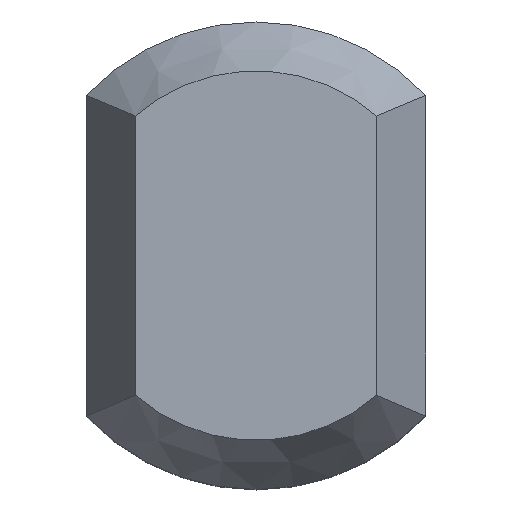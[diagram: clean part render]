
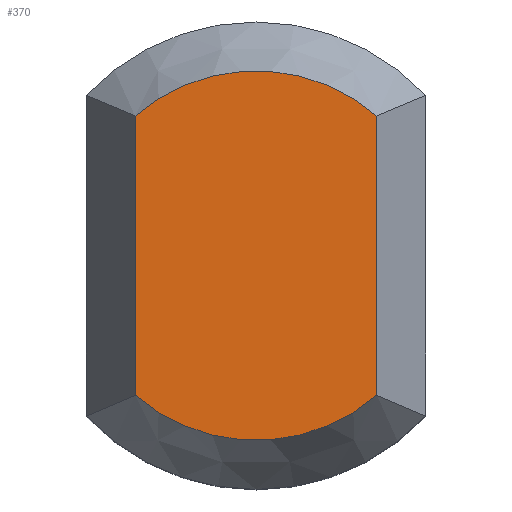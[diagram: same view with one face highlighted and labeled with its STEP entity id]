
A CAD part, top view. The second image highlights one B-rep face of the part: STEP entity #370.
In plain terms, the highlighted planar face has unit normal (0, 0, 1).
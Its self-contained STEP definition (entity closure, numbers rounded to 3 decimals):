
#211=CARTESIAN_POINT('Axis2P3D Location',(0.,0.,9.)) ;
#215=CARTESIAN_POINT('Vertex',(2.845,3.284,9.)) ;
#217=CARTESIAN_POINT('Vertex',(-2.845,3.284,9.)) ;
#244=CARTESIAN_POINT('Line Origine',(-2.845,0.,9.)) ;
#248=CARTESIAN_POINT('Vertex',(-2.845,-3.284,9.)) ;
#269=CARTESIAN_POINT('Axis2P3D Location',(0.,0.,9.)) ;
#273=CARTESIAN_POINT('Vertex',(2.845,-3.284,9.)) ;
#294=CARTESIAN_POINT('Line Origine',(2.845,0.,9.)) ;
#359=CARTESIAN_POINT('Axis2P3D Location',(0.,0.,9.)) ;
#212=DIRECTION('Axis2P3D Direction',(0.,0.,1.)) ;
#245=DIRECTION('Vector Direction',(0.,1.,0.)) ;
#270=DIRECTION('Axis2P3D Direction',(0.,0.,1.)) ;
#295=DIRECTION('Vector Direction',(0.,1.,0.)) ;
#360=DIRECTION('Axis2P3D Direction',(0.,0.,1.)) ;
#361=DIRECTION('Axis2P3D XDirection',(1.,0.,0.)) ;
#213=AXIS2_PLACEMENT_3D('Circle Axis2P3D',#211,#212,$) ;
#271=AXIS2_PLACEMENT_3D('Circle Axis2P3D',#269,#270,$) ;
#362=AXIS2_PLACEMENT_3D('Plane Axis2P3D',#359,#360,#361) ;
#365=ORIENTED_EDGE('',*,*,#298,.T.) ;
#366=ORIENTED_EDGE('',*,*,#219,.T.) ;
#367=ORIENTED_EDGE('',*,*,#250,.T.) ;
#368=ORIENTED_EDGE('',*,*,#275,.T.) ;
#246=VECTOR('Line Direction',#245,1.) ;
#296=VECTOR('Line Direction',#295,1.) ;
#370=ADVANCED_FACE('Zentrierstift Vario_Handlingsystem',(#369),#363,.T.) ;
#214=CIRCLE('generated circle',#213,4.345) ;
#272=CIRCLE('generated circle',#271,4.345) ;
#219=EDGE_CURVE('',#216,#218,#214,.T.) ;
#250=EDGE_CURVE('',#218,#249,#247,.F.) ;
#275=EDGE_CURVE('',#249,#274,#272,.T.) ;
#298=EDGE_CURVE('',#274,#216,#297,.T.) ;
#364=EDGE_LOOP('',(#365,#366,#367,#368)) ;
#369=FACE_OUTER_BOUND('',#364,.T.) ;
#247=LINE('Line',#244,#246) ;
#297=LINE('Line',#294,#296) ;
#363=PLANE('Plane',#362) ;
#216=VERTEX_POINT('',#215) ;
#218=VERTEX_POINT('',#217) ;
#249=VERTEX_POINT('',#248) ;
#274=VERTEX_POINT('',#273) ;
